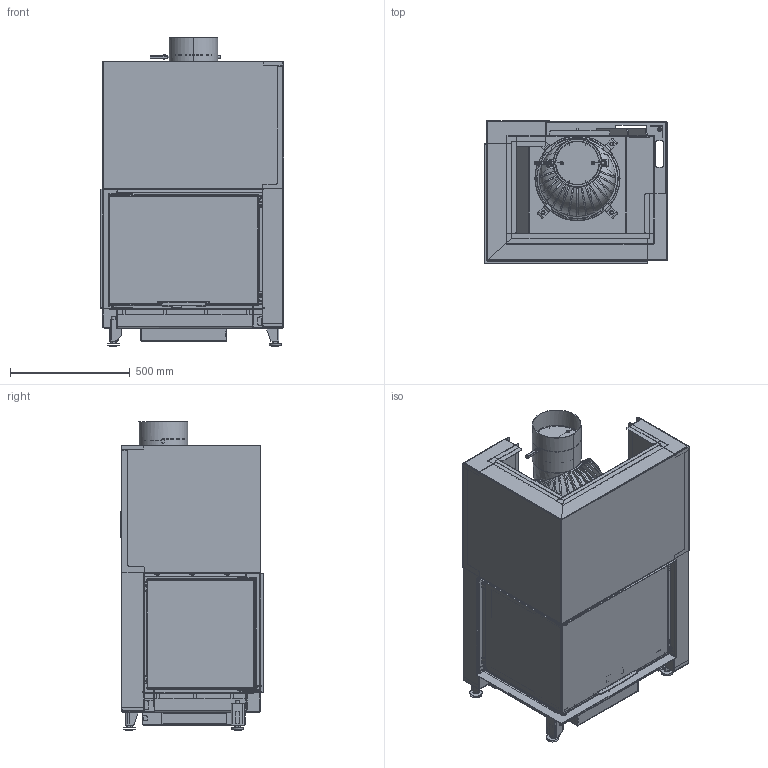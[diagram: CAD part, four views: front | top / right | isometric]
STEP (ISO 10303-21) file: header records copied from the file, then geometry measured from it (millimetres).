
FILE_DESCRIPTION(/* description */ (''),/* implementation_level */ '2;1');
FILE_NAME(/* name */ 'C:\ADSK_DM_WS\CAD_3D\03 Geraete\RII 50x68x50\Zeichnungen\RII_50x68x50_Links_ohne_Mantel_Oben_Gen2_2022-03321.stp',/* time_stamp */ '2022-08-16T09:26:30+02:00',/* author */ ('TIS'),/* organization */ (''),/* preprocessor_version */ 'ST-DEVELOPER v18.1',/* originating_system */ 'Autodesk Inventor 2022',/* authorisation */ '');
FILE_SCHEMA (('AUTOMOTIVE_DESIGN { 1 0 10303 214 3 1 1 }'));
Products named in the file (7): 2022-03321; 2022-03318; 2022-03317; 2022-03316; 2022-03315; 2022-03314; 2022-03312
Assembly tree (6 placements, depth 2):
  2022-03321
    2022-03318
    2022-03317
    2022-03316
    2022-03315
    2022-03314
    2022-03312
Bounding box: 768.9 x 596.5 x 1288.56 mm (x, y, z)
Volume: 41790479.2 mm3; surface area: 16358988.7 mm2
Topology: 19 solids, 30 shells, 6485 faces, 17578 edges, 11007 vertices
Faces by surface type: plane 3633, cylinder 2404, bspline 221, cone 168, torus 58, sphere 1
Full cylindrical faces by diameter (mm): 3.242 x6, 4.5 x4, 4.8 x7, 6 x5, 7.9 x1, 8 x8, 9 x3, 9.5 x6, 10 x3, 11.192 x3, 11.4 x6, 12 x2, 16 x14, 30 x4, 163 x1, 333 x1, 339 x1
Entity records: 218690 total; most frequent: CARTESIAN_POINT 46823, ORIENTED_EDGE 35102, DIRECTION 34345, EDGE_CURVE 17604, AXIS2_PLACEMENT_3D 11519, LINE 11307, VECTOR 11307, VERTEX_POINT 11013
